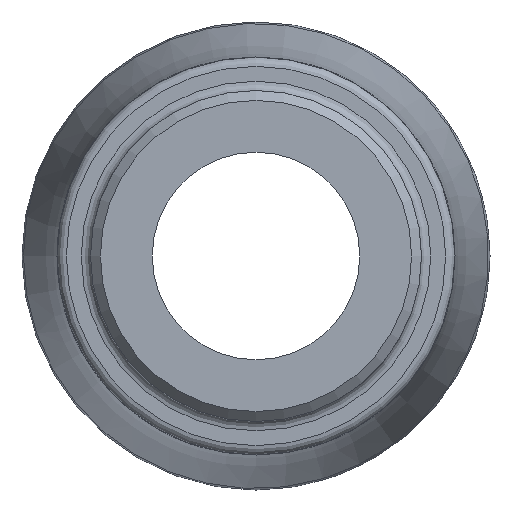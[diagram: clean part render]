
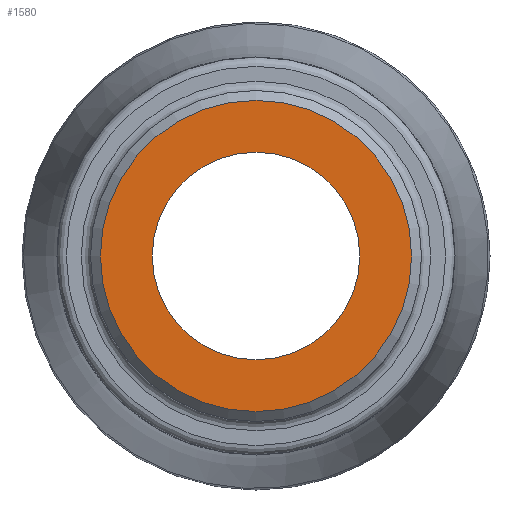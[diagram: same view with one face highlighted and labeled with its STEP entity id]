
A CAD part, left-side view. The second image highlights one B-rep face of the part: STEP entity #1580.
In plain terms, the highlighted planar face has unit normal (-1, 0, 0).
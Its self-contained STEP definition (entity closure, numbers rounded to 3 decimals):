
#261=PLANE('',#1734);
#352=FACE_BOUND('',#496,.T.);
#388=FACE_OUTER_BOUND('',#495,.T.);
#495=EDGE_LOOP('',(#1222));
#496=EDGE_LOOP('',(#1223));
#626=CIRCLE('',#1730,15.627);
#629=CIRCLE('',#1735,10.417);
#736=VERTEX_POINT('',#2820);
#739=VERTEX_POINT('',#2828);
#914=EDGE_CURVE('',#736,#736,#626,.T.);
#917=EDGE_CURVE('',#739,#739,#629,.T.);
#1222=ORIENTED_EDGE('',*,*,#914,.F.);
#1223=ORIENTED_EDGE('',*,*,#917,.T.);
#1580=ADVANCED_FACE('',(#388,#352),#261,.T.);
#1730=AXIS2_PLACEMENT_3D('',#2821,#2013,#2014);
#1734=AXIS2_PLACEMENT_3D('',#2827,#2021,#2022);
#1735=AXIS2_PLACEMENT_3D('',#2829,#2023,#2024);
#2013=DIRECTION('center_axis',(1.,0.,0.));
#2014=DIRECTION('ref_axis',(0.,-1.,0.));
#2021=DIRECTION('center_axis',(-1.,0.,0.));
#2022=DIRECTION('ref_axis',(0.,0.,1.));
#2023=DIRECTION('center_axis',(1.,0.,0.));
#2024=DIRECTION('ref_axis',(0.,0.,-1.));
#2820=CARTESIAN_POINT('',(0.,15.627,0.));
#2821=CARTESIAN_POINT('Origin',(0.,0.,0.));
#2827=CARTESIAN_POINT('Origin',(0.,16.625,0.));
#2828=CARTESIAN_POINT('',(0.,10.417,0.));
#2829=CARTESIAN_POINT('Origin',(0.,0.,0.));
